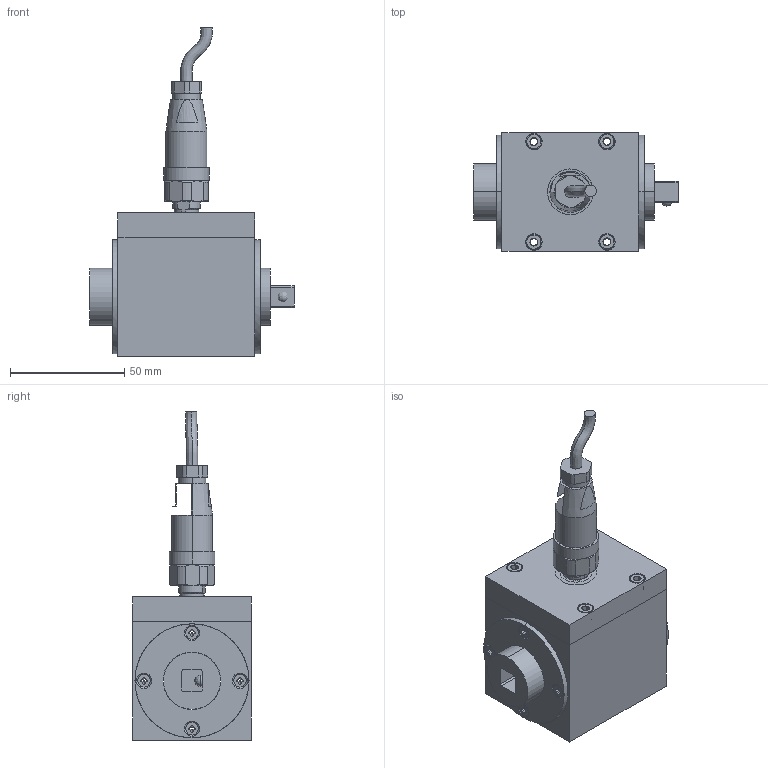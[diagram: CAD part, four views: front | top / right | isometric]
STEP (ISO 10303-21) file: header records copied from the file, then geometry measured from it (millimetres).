
FILE_DESCRIPTION (( 'STEP AP214' ), '1' );
FILE_NAME ('KTE50 Nm Trasduttore esterno 022450.STEP', '2020-11-03T15:59:34', ( '' ), ( '' ), 'SwSTEP 2.0', 'SolidWorks 2020', '' );
FILE_SCHEMA (( 'AUTOMOTIVE_DESIGN' ));
Length unit declared in the file: millimetre
Products named in the file (1): KTE50 Nm Trasduttore esterno 022450
Bounding box: 89.5 x 52 x 143.86 mm (x, y, z)
Surface area: 43608.8 mm2 (no closed solid volume)
Topology: 0 solids, 25 shells, 363 faces, 1069 edges, 719 vertices
Faces by surface type: plane 185, cylinder 91, cone 72, bspline 15
Entity records: 18443 total; most frequent: CARTESIAN_POINT 5008, DIRECTION 1935, ORIENTED_EDGE 1834, EDGE_CURVE 1057, VERTEX_POINT 715, AXIS2_PLACEMENT_3D 646, VECTOR 643, LINE 643
